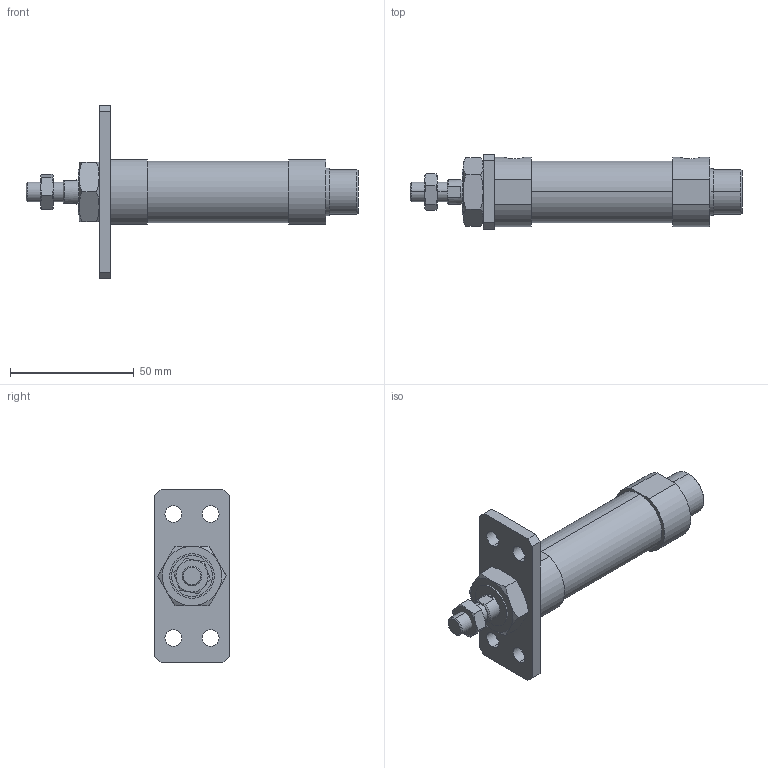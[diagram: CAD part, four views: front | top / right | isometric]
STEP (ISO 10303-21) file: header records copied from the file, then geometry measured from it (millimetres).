
FILE_DESCRIPTION (( 'STEP AP203' ), '1' );
FILE_NAME ('J#2-20-25-A.STEP', '2016-03-08T06:53:56', ( '' ), ( '' ), 'SwSTEP 2.0', 'SolidWorks 2014', '' );
FILE_SCHEMA (( 'CONFIG_CONTROL_DESIGN' ));
Length unit declared in the file: millimetre
Products named in the file (5): J#2-20-25; J#2-20-A; J#2-20-25-A
Assembly tree (4 placements, depth 2):
  J#2-20-25-A
    J#2-20-25
    (unnamed)
    (unnamed)
    J#2-20-A
Bounding box: 134 x 30 x 70 mm (x, y, z)
Volume: 62672.7 mm3; surface area: 18249.6 mm2
Topology: 4 solids, 4 shells, 112 faces, 252 edges, 158 vertices
Faces by surface type: plane 46, cylinder 36, torus 24, cone 6
Entity records: 4013 total; most frequent: CARTESIAN_POINT 985, DIRECTION 536, ORIENTED_EDGE 504, EDGE_CURVE 252, AXIS2_PLACEMENT_3D 221, VERTEX_POINT 158, EDGE_LOOP 136, ADVANCED_FACE 112
